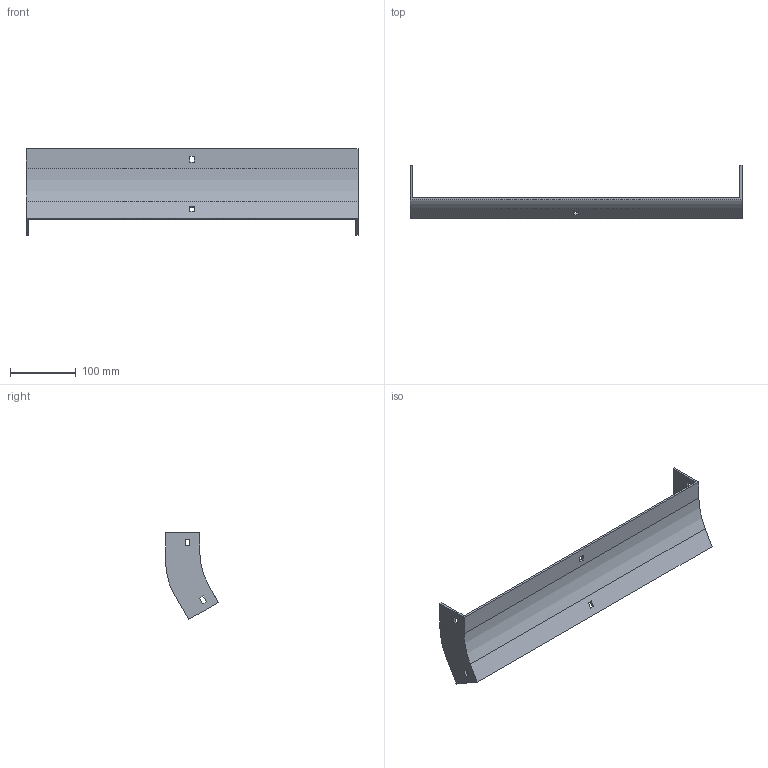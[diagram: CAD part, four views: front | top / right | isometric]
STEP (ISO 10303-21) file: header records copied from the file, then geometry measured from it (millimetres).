
FILE_DESCRIPTION (( 'STEP AP214' ), '1' );
FILE_NAME ('35F1B500.step', '2025-02-21T12:49:37', ( '' ), ( '' ), 'SwSTEP 2.0', 'SolidWorks 2023', '' );
FILE_SCHEMA (( 'AUTOMOTIVE_DESIGN' ));
Length unit declared in the file: millimetre
Products named in the file (1): 35F1B500
Bounding box: 504 x 80.4 x 131.98 mm (x, y, z)
Volume: 242072.9 mm3; surface area: 144202.5 mm2
Topology: 1 solids, 1 shells, 42 faces, 120 edges, 80 vertices
Faces by surface type: plane 38, cylinder 4
Entity records: 1399 total; most frequent: CARTESIAN_POINT 243, ORIENTED_EDGE 240, DIRECTION 214, EDGE_CURVE 120, VECTOR 112, LINE 112, VERTEX_POINT 80, EDGE_LOOP 54
